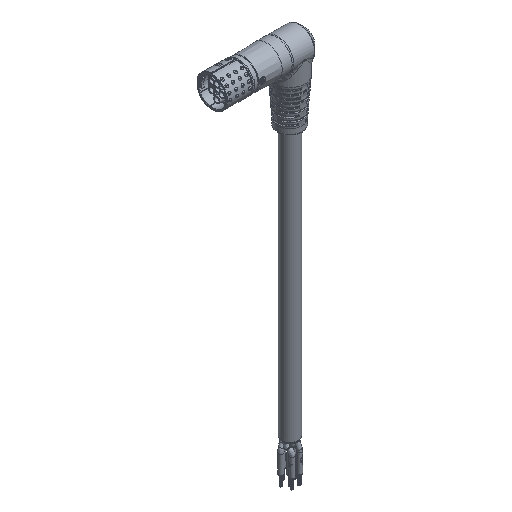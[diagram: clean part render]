
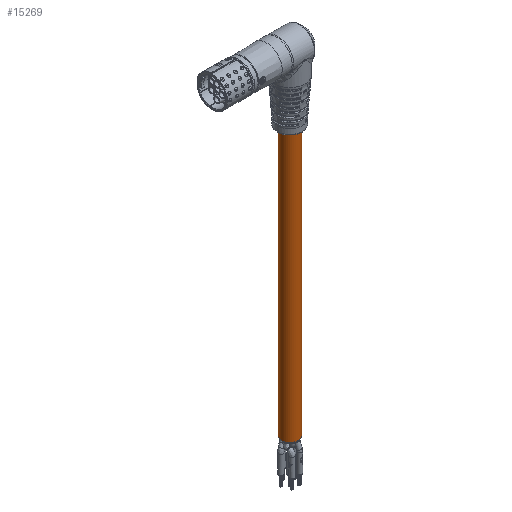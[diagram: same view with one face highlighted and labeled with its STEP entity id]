
A CAD part, isometric view. The second image highlights one B-rep face of the part: STEP entity #15269.
In plain terms, the highlighted cylindrical face has radius 5.7 mm (diameter 11.4 mm), a full revolution.
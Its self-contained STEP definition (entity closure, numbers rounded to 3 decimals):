
#338 = CYLINDRICAL_SURFACE ( 'NONE', #51283, 5.7 ) ;
#846 = DIRECTION ( 'NONE',  ( -0.924, 0.383, 0. ) ) ;
#1343 = EDGE_CURVE ( 'NONE', #3273, #3273, #7304, .T. ) ;
#3273 = VERTEX_POINT ( 'NONE', #52035 ) ;
#5419 = AXIS2_PLACEMENT_3D ( 'NONE', #6732, #23012, #39397 ) ;
#6732 = CARTESIAN_POINT ( 'NONE',  ( 0., -0.1, -206.898 ) ) ;
#7304 = CIRCLE ( 'NONE', #52641, 5.7 ) ;
#7776 = EDGE_LOOP ( 'NONE', ( #10537 ) ) ;
#10537 = ORIENTED_EDGE ( 'NONE', *, *, #1343, .F. ) ;
#12019 = VERTEX_POINT ( 'NONE', #16797 ) ;
#12232 = EDGE_LOOP ( 'NONE', ( #20981 ) ) ;
#12367 = EDGE_CURVE ( 'NONE', #12019, #12019, #28459, .T. ) ;
#12897 = FACE_OUTER_BOUND ( 'NONE', #12232, .T. ) ;
#15269 = ADVANCED_FACE ( 'NONE', ( #29503, #12897 ), #338, .T. ) ;
#16619 = DIRECTION ( 'NONE',  ( 0., 0., 1. ) ) ;
#16797 = CARTESIAN_POINT ( 'NONE',  ( 5.266, -2.281, -206.898 ) ) ;
#20651 = DIRECTION ( 'NONE',  ( 0., 0., 1. ) ) ;
#20913 = CARTESIAN_POINT ( 'NONE',  ( 0., -0.1, -223.02 ) ) ;
#20981 = ORIENTED_EDGE ( 'NONE', *, *, #12367, .T. ) ;
#23012 = DIRECTION ( 'NONE',  ( 0., 0., 1. ) ) ;
#28459 = CIRCLE ( 'NONE', #5419, 5.7 ) ;
#29503 = FACE_OUTER_BOUND ( 'NONE', #7776, .T. ) ;
#37021 = DIRECTION ( 'NONE',  ( -0.924, 0.383, 0. ) ) ;
#39397 = DIRECTION ( 'NONE',  ( 0.924, -0.383, 0. ) ) ;
#49887 = CARTESIAN_POINT ( 'NONE',  ( 0., -0.1, -21.793 ) ) ;
#51283 = AXIS2_PLACEMENT_3D ( 'NONE', #20913, #20651, #37021 ) ;
#52035 = CARTESIAN_POINT ( 'NONE',  ( -5.266, 2.081, -21.793 ) ) ;
#52641 = AXIS2_PLACEMENT_3D ( 'NONE', #49887, #16619, #846 ) ;
